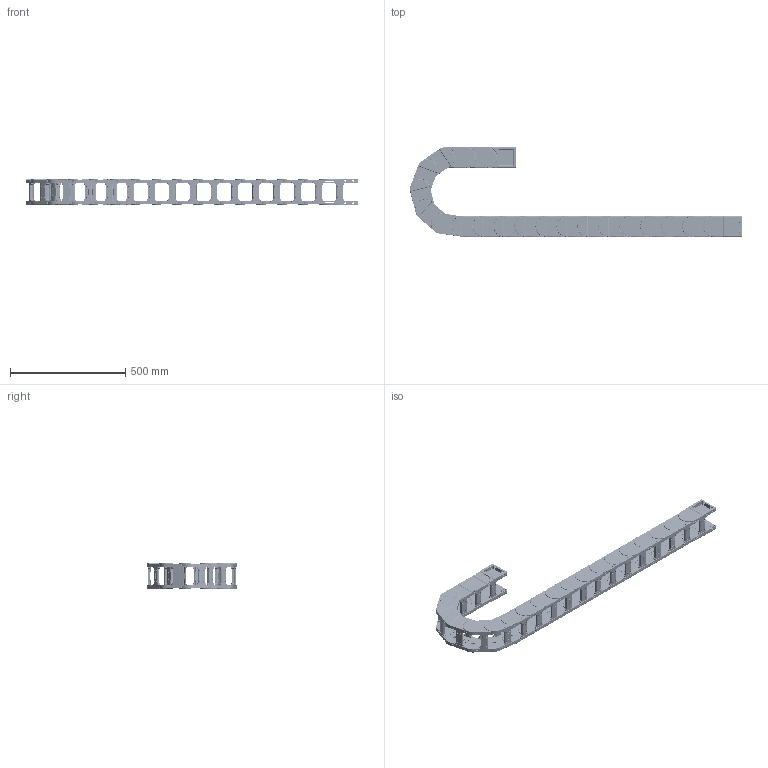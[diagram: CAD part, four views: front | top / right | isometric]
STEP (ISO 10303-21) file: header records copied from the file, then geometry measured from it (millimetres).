
FILE_DESCRIPTION (( 'STEP AP214' ), '1' );
FILE_NAME ('J60Q.1.75S-3D賦凳芞.STEP', '2019-01-10T01:27:02', ( 'Sky123.Org' ), ( 'Sky123.Org' ), 'SwSTEP 2.0', 'SolidWorks 2017', '' );
FILE_SCHEMA (( 'AUTOMOTIVE_DESIGN' ));
Length unit declared in the file: millimetre
Products named in the file (10): J60Q.1-源諉芛-W; J60Q.1.100S-桥式-内接头; 臏簽12X9; J60Q.1-源諉芛-N; J60Q.1.100S-桥式-单节主体; J60-H80-100結え; J60Q.1-翋极-R-2018.3.30; J60Q.1-翋极-L-2018.3.30; J60Q.1.75S-3D賦凳芞; J60Q.1.100S-桥式-外接头
Assembly tree (57 placements, depth 3):
  J60Q.1.75S-3D賦凳芞
    J60Q.1.100S-桥式-单节主体  x19
      J60Q.1-翋极-L-2018.3.30
      J60Q.1-翋极-R-2018.3.30
      J60-H80-100結え
    J60Q.1.100S-桥式-内接头
      J60Q.1-源諉芛-N  x2
      J60-H80-100結え  x2
      臏簽12X9  x12
    J60Q.1.100S-桥式-外接头
      J60Q.1-源諉芛-W  x2
      J60-H80-100結え  x2
      臏簽12X9  x12
Bounding box: 1442.11 x 388.53 x 115 mm (x, y, z)
Volume: 6203356.4 mm3; surface area: 2094959.1 mm2
Topology: 108 solids, 148 shells, 18295 faces, 48474 edges, 30920 vertices
Faces by surface type: plane 9051, cylinder 5868, bspline 1518, torus 1036, sphere 610, cone 212
Entity records: 35056 total; most frequent: CARTESIAN_POINT 8355, ORIENTED_EDGE 4766, DIRECTION 4656, EDGE_CURVE 2383, AXIS2_PLACEMENT_3D 1568, VERTEX_POINT 1531, VECTOR 1520, LINE 1520
